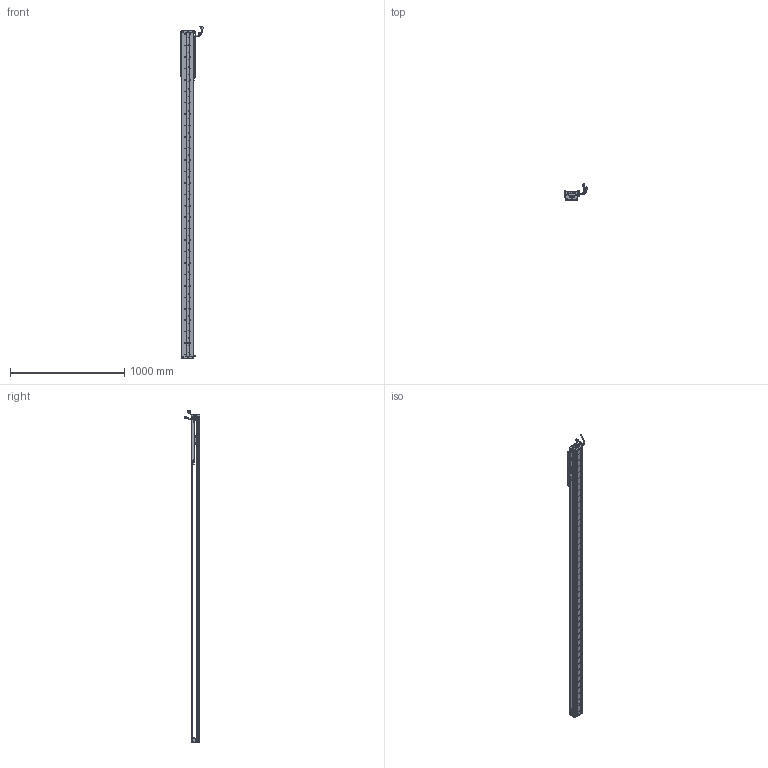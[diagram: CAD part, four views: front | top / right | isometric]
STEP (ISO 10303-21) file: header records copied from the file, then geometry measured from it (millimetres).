
FILE_DESCRIPTION (( 'STEP AP203' ), '1' );
FILE_NAME ('Z5-RY100D-1-L500-B-K.SLDASM_2400.step', '2021-05-17T03:34:56', ( '盈信电脑' ), ( '东莞市道滘镇水果街19号' ), 'SwSTEP 2.0', 'SolidWorks 2016', '' );
FILE_SCHEMA (( 'CONFIG_CONTROL_DESIGN' ));
Length unit declared in the file: millimetre
Products named in the file (36): SCREW-M1.6-1; 100-Z-臏賑輸盄裔(21遴); Z5-RY100-L500詩湍90mm遵_2400; 榋妏寠巭燃_暯_M2_2; HOLDER0; Z5-RY100D-500-倰第菁釱_2400; HARNESS; SHIELDPLATE; SEAL-Part-1; PSLH080_PSLF2; COVER; Z-RY100D詩湍狟揤裔; SCALE-Part-2; Z-100詩湍傷裔啣; SCALE; SCREW-M1.6; Z5-RY100铝滑块（21款）; SCREW-M1.7-1; HARNESS-Part-2; 140蚥薯蝶輸; 080黍杅芛假蚾釱21遴; COVER-Part-1; SCALE-Part-1; HARNESS-Part-1; LABEL-Part-1; Z-RY100D詩湍奻揤裔; 覜茼ん672; PBU_SHEET; SCREW-M1.7; Z-RY100D覜茼んえ; SCREW-M1.6-3; SCREW-M1.6-2; SEAL; LABEL; 140雄赽晤鎢ん堤盄; Z5-RY100D-1-L500-B-K.SLDASM_2400
Assembly tree (43 placements, depth 4):
  Z5-RY100D-1-L500-B-K.SLDASM_2400
    Z5-RY100D-500-倰第菁釱_2400
    Z5-RY100铝滑块（21款）
    PSLH080_PSLF2
      SCALE
        SCALE-Part-1
        SCALE-Part-2
      HARNESS
        HARNESS-Part-1
        HARNESS-Part-2
      LABEL
        LABEL-Part-1
      COVER
        COVER-Part-1
      SEAL
        SEAL-Part-1
      榋妏寠巭燃_暯_M2_2
      SHIELDPLATE
      SCREW-M1.7
      SCREW-M1.7-1
      PBU_SHEET
      SCREW-M1.6
      SCREW-M1.6-1
      SCREW-M1.6-2
      SCREW-M1.6-3
      HOLDER0
    080黍杅芛假蚾釱21遴
    Z-100詩湍傷裔啣  x2
    140蚥薯蝶輸  x2
    覜茼ん672  x3
    Z-RY100D覜茼んえ  x3
    100-Z-臏賑輸盄裔(21遴)
    140雄赽晤鎢ん堤盄
    Z5-RY100-L500詩湍90mm遵_2400
    Z-RY100D詩湍狟揤裔  x2
    Z-RY100D詩湍奻揤裔  x2
Bounding box: 205.79 x 136.11 x 2900.43 mm (x, y, z)
Volume: 5468919.1 mm3; surface area: 2123869.6 mm2
Topology: 38 solids, 38 shells, 3087 faces, 8461 edges, 5408 vertices
Faces by surface type: cylinder 1542, plane 1197, cone 226, torus 69, bspline 53
Entity records: 90091 total; most frequent: CARTESIAN_POINT 18839, DIRECTION 14571, ORIENTED_EDGE 13802, EDGE_CURVE 6901, AXIS2_PLACEMENT_3D 5496, VERTEX_POINT 4476, LINE 3579, VECTOR 3579
